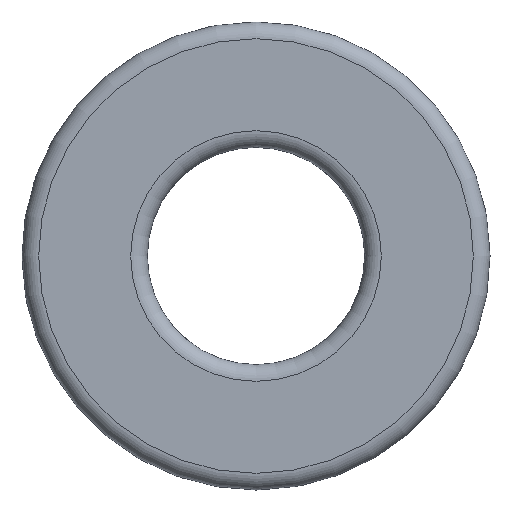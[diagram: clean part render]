
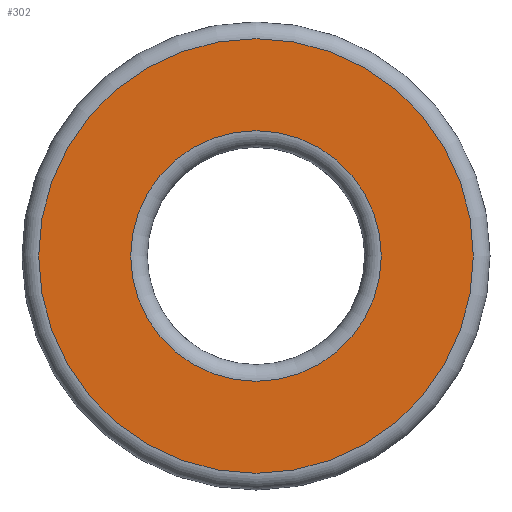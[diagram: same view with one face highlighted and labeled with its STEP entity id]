
A CAD part, front view. The second image highlights one B-rep face of the part: STEP entity #302.
In plain terms, the highlighted planar face has unit normal (0, -1, 0).
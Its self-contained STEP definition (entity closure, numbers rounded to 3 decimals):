
#44=FACE_BOUND('',#76,.T.);
#55=FACE_OUTER_BOUND('',#75,.T.);
#75=EDGE_LOOP('',(#220,#221));
#76=EDGE_LOOP('',(#222,#223));
#101=CIRCLE('',#350,13.05);
#102=CIRCLE('',#351,13.05);
#105=CIRCLE('',#356,7.525);
#106=CIRCLE('',#357,7.525);
#132=VERTEX_POINT('',#523);
#133=VERTEX_POINT('',#525);
#136=VERTEX_POINT('',#535);
#137=VERTEX_POINT('',#536);
#164=EDGE_CURVE('',#132,#133,#101,.T.);
#165=EDGE_CURVE('',#133,#132,#102,.T.);
#169=EDGE_CURVE('',#136,#137,#105,.T.);
#170=EDGE_CURVE('',#137,#136,#106,.T.);
#220=ORIENTED_EDGE('',*,*,#165,.F.);
#221=ORIENTED_EDGE('',*,*,#164,.F.);
#222=ORIENTED_EDGE('',*,*,#169,.F.);
#223=ORIENTED_EDGE('',*,*,#170,.F.);
#272=PLANE('',#355);
#302=ADVANCED_FACE('',(#55,#44),#272,.T.);
#350=AXIS2_PLACEMENT_3D('',#526,#422,#423);
#351=AXIS2_PLACEMENT_3D('',#527,#424,#425);
#355=AXIS2_PLACEMENT_3D('',#534,#433,#434);
#356=AXIS2_PLACEMENT_3D('',#537,#435,#436);
#357=AXIS2_PLACEMENT_3D('',#538,#437,#438);
#422=DIRECTION('center_axis',(0.,1.,0.));
#423=DIRECTION('ref_axis',(0.,0.,
-1.));
#424=DIRECTION('center_axis',(0.,1.,0.));
#425=DIRECTION('ref_axis',(0.,0.,
-1.));
#433=DIRECTION('center_axis',(0.,-1.,0.));
#434=DIRECTION('ref_axis',(0.,0.,-1.));
#435=DIRECTION('center_axis',(0.,-1.,0.));
#436=DIRECTION('ref_axis',(0.,0.,-1.));
#437=DIRECTION('center_axis',(0.,-1.,0.));
#438=DIRECTION('ref_axis',(0.,0.,-1.));
#523=CARTESIAN_POINT('',(6.525,0.,-13.05));
#525=CARTESIAN_POINT('',(6.525,0.,13.05));
#526=CARTESIAN_POINT('Origin',(6.525,0.,0.));
#527=CARTESIAN_POINT('Origin',(6.525,0.,0.));
#534=CARTESIAN_POINT('Origin',(6.525,0.,-10.288));
#535=CARTESIAN_POINT('',(6.525,0.,7.525));
#536=CARTESIAN_POINT('',(6.525,0.,-7.525));
#537=CARTESIAN_POINT('Origin',(6.525,0.,0.));
#538=CARTESIAN_POINT('Origin',(6.525,0.,0.));
